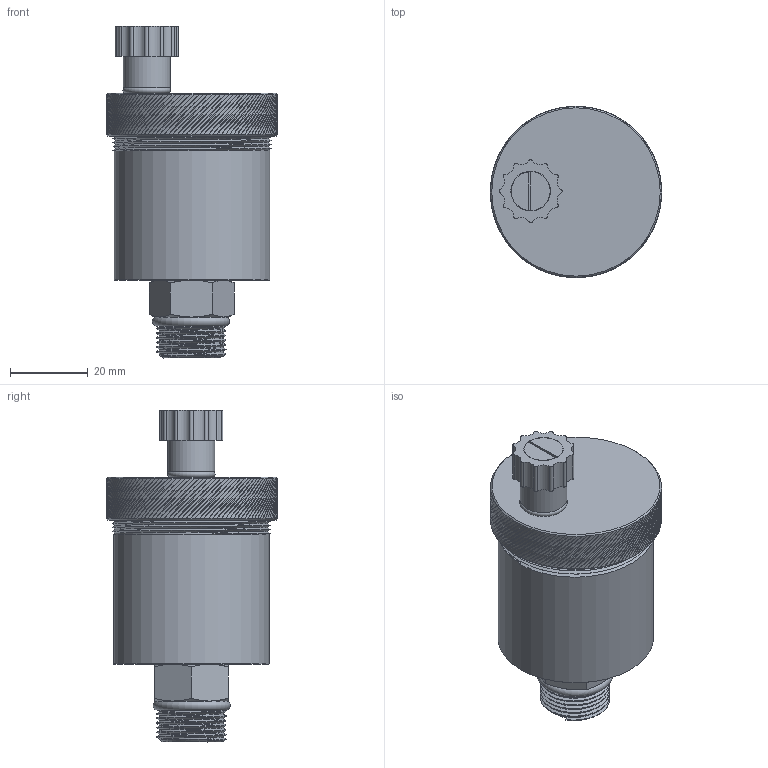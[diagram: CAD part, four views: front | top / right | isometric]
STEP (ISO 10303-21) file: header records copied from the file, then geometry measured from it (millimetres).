
FILE_DESCRIPTION(/* description */ (''),/* implementation_level */ '2;1');
FILE_NAME(/* name */ 'PURG-O-MAT VA',/* time_stamp */ '2026-02-28T18:11:21+01:00',/* author */ (''),/* organization */ (''),/* preprocessor_version */ 'ST-DEVELOPER v16.13',/* originating_system */ 'MicroStation Version 10.15.02.11',/* authorisation */ '');
FILE_SCHEMA (('AUTOMOTIVE_DESIGN'));
Length unit declared in the file: millimetre
Products named in the file (1): PURG-O-MAT VA1
Bounding box: 44 x 44 x 85.34 mm (x, y, z)
Volume: 22750.6 mm3; surface area: 28689.5 mm2
Topology: 12 solids, 32 shells, 345 faces, 646 edges, 456 vertices
Faces by surface type: cone 259, plane 40, cylinder 37, bspline 7, torus 2
Full cylindrical faces by diameter (mm): 10 x1, 10.2 x1, 10.69 x1, 11 x1, 12 x1, 14 x2, 16.5 x1, 36 x1, 39.25 x1, 40 x2, 44 x1
Entity records: 11922 total; most frequent: CARTESIAN_POINT 5131, DIRECTION 1188, ORIENTED_EDGE 1094, EDGE_CURVE 585, AXIS2_PLACEMENT_3D 559, FACE_BOUND 497, EDGE_LOOP 495, VERTEX_POINT 428
